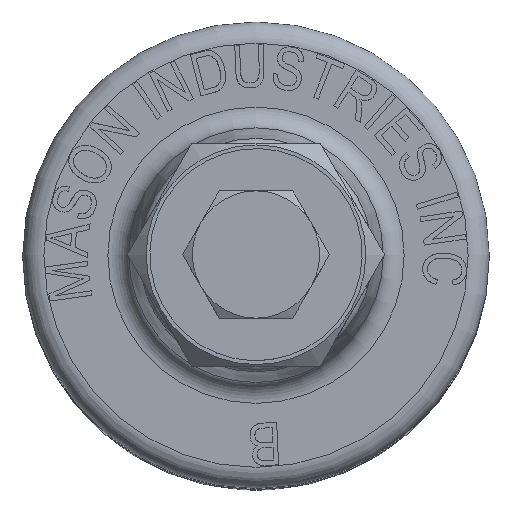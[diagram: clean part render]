
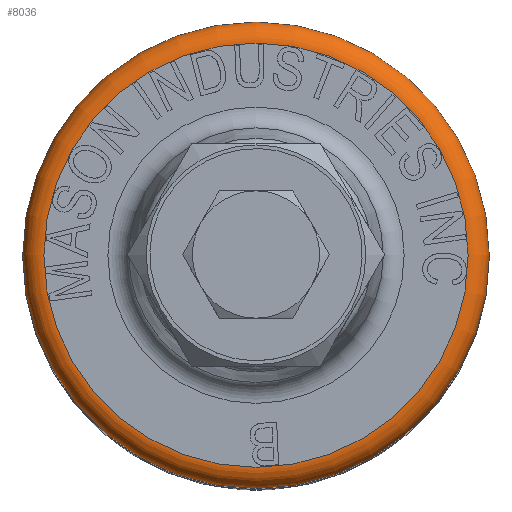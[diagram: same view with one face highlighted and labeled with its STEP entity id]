
A CAD part, top view. The second image highlights one B-rep face of the part: STEP entity #8036.
In plain terms, the highlighted toroidal (fillet/blend) face has major radius 31.75 mm and minor radius 3.175 mm.
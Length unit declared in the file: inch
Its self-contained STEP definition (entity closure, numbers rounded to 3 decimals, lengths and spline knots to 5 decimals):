
#55=TOROIDAL_SURFACE('',#8396,1.25,0.125);
#83=CIRCLE('',#8380,1.25);
#90=CIRCLE('',#8397,1.3743);
#301=FACE_BOUND('',#1064,.T.);
#596=FACE_OUTER_BOUND('',#1063,.T.);
#1063=EDGE_LOOP('',(#6201));
#1064=EDGE_LOOP('',(#6202));
#3494=VERTEX_POINT('',#13213);
#3501=VERTEX_POINT('',#13237);
#4447=EDGE_CURVE('',#3494,#3494,#83,.T.);
#4454=EDGE_CURVE('',#3501,#3501,#90,.T.);
#6201=ORIENTED_EDGE('',*,*,#4454,.F.);
#6202=ORIENTED_EDGE('',*,*,#4447,.T.);
#8036=ADVANCED_FACE('',(#596,#301),#55,.T.);
#8380=AXIS2_PLACEMENT_3D('',#13214,#9413,#9414);
#8396=AXIS2_PLACEMENT_3D('',#13236,#9445,#9446);
#8397=AXIS2_PLACEMENT_3D('',#13238,#9447,#9448);
#9413=DIRECTION('center_axis',(0.,0.,
-1.));
#9414=DIRECTION('ref_axis',(-1.,0.,0.));
#9445=DIRECTION('center_axis',(0.,0.,
-1.));
#9446=DIRECTION('ref_axis',(-1.,0.,0.));
#9447=DIRECTION('center_axis',(0.,0.,
-1.));
#9448=DIRECTION('ref_axis',(-1.,0.,0.));
#13213=CARTESIAN_POINT('',(-1.25,0.,5.1875));
#13214=CARTESIAN_POINT('Origin',(0.,0.,
5.1875));
#13236=CARTESIAN_POINT('Origin',(0.,0.,
5.0625));
#13237=CARTESIAN_POINT('',(-1.3743,0.,5.04925));
#13238=CARTESIAN_POINT('Origin',(0.,0.,
5.04925));
